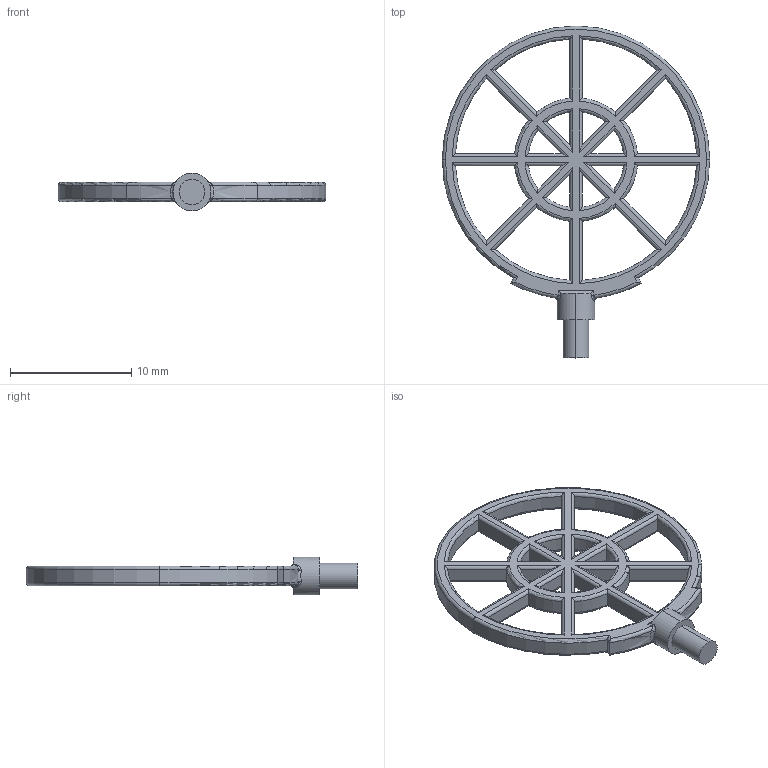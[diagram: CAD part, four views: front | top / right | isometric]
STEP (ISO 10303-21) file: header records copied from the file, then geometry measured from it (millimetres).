
FILE_DESCRIPTION (( 'STEP AP203' ), '1' );
FILE_NAME ('japanese-gun-001-end-sight-large.STEP', '2013-11-16T22:53:01', ( 'Kirk' ), ( 'Microsoft' ), 'SwSTEP 2.0', 'SolidWorks 2012', '' );
FILE_SCHEMA (( 'CONFIG_CONTROL_DESIGN' ));
Length unit declared in the file: inch
Products named in the file (1): japanese-gun-001-end-sight-large
Bounding box: 22.1 x 27.43 x 3.12 mm (x, y, z)
Volume: 302.6 mm3; surface area: 800.9 mm2
Topology: 1 solids, 1 shells, 211 faces, 492 edges, 284 vertices
Faces by surface type: cylinder 107, torus 58, plane 40, bspline 6
Entity records: 6627 total; most frequent: CARTESIAN_POINT 1948, ORIENTED_EDGE 984, DIRECTION 902, EDGE_CURVE 492, AXIS2_PLACEMENT_3D 344, VERTEX_POINT 284, EDGE_LOOP 244, LINE 214
